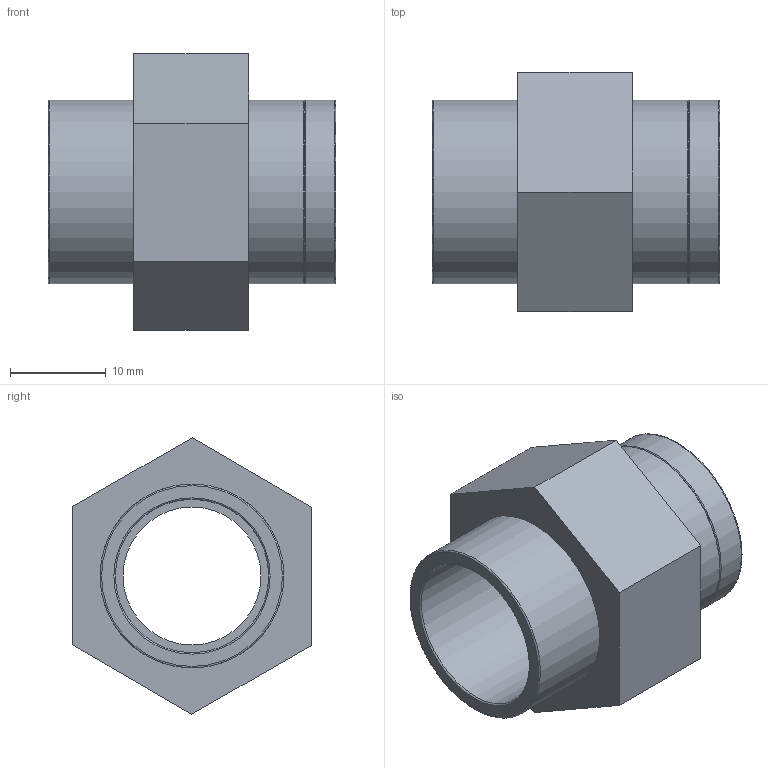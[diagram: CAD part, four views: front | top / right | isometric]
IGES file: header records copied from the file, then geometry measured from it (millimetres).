
Global section: file name: 057102016003.ipt; native system: Autodesk Inventor 2015; preprocessor: unknown; author: KIM; date: 20171207.165803; units: millimetre
Bounding box: 30 x 25.04 x 28.87 mm (x, y, z)
Volume: 6119.5 mm3; surface area: 4321.7 mm2
Topology: 1 solids, 1 shells, 24 faces, 61 edges, 43 vertices
Faces by surface type: plane 12, revolution 7, cylinder 3, cone 2
Full cylindrical faces by diameter (mm): 19.2 x3
